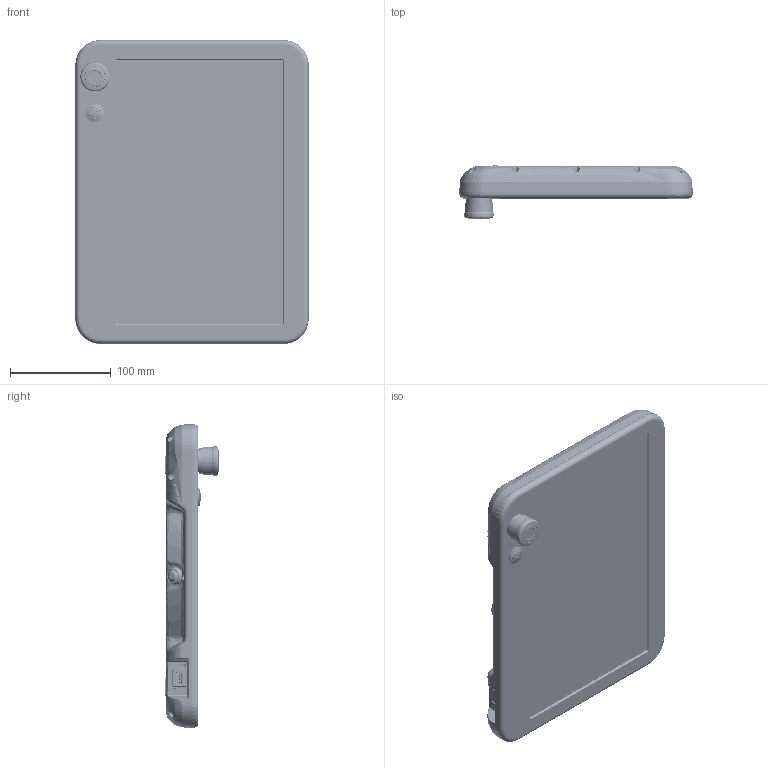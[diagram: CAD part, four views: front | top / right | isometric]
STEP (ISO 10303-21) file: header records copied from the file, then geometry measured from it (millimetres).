
FILE_DESCRIPTION (( 'STEP AP203' ), '1' );
FILE_NAME ('SJQ-C-勤俋.STEP', '2022-08-02T07:43:41', ( '' ), ( '' ), 'SwSTEP 2.0', 'SolidWorks 2017', '' );
FILE_SCHEMA (( 'CONFIG_CONTROL_DESIGN' ));
Length unit declared in the file: millimetre
Products named in the file (14): 尨諒ん綴褲-C_1; eTP_USB_V1.021_1; cross recessed ctsk head tapping screws gb_GB_CROSS_SCREWS_TYPE129 ST2.9X9.5 H C-N; cross recessed pan head tapping screws gb_GB_CROSS_SCREWS_TYPE128 ST2.9X6.5 H F-S; SJQ-C-勤俋; 羲壽MPB16L-CXRP-00-JR_1; 尨諒ん忒勂湍鍼踢-C_1; XA1E-BV3U02K; SJQ褲极_1; 尨諒ん境像鍼踢-C_1; cross recessed countersunk head screws gb1_GB_CROSS_SCREWS_TYPE4 M2.5X8-6.5  H type-N; ZB12106 2A-GDA-A1  揖類そ帊欴抎-XXE_1; 尨諒んヶ裔-C_1; 偌聽ISR3SAD200_1
Assembly tree (56 placements, depth 3):
  SJQ-C-勤俋
    SJQ褲极_1
      尨諒ん綴褲-C_1
      尨諒んヶ裔-C_1
    尨諒ん忒勂湍鍼踢-C_1  x2
    尨諒ん境像鍼踢-C_1
    ZB12106 2A-GDA-A1  揖類そ帊欴抎-XXE_1
    XA1E-BV3U02K
    羲壽MPB16L-CXRP-00-JR_1
    偌聽ISR3SAD200_1
    eTP_USB_V1.021_1
    cross recessed pan head tapping screws gb_GB_CROSS_SCREWS_TYPE128 ST2.9X6.5 H F-S  x35
    cross recessed countersunk head screws gb1_GB_CROSS_SCREWS_TYPE4 M2.5X8-6.5  H type-N  x2
    cross recessed ctsk head tapping screws gb_GB_CROSS_SCREWS_TYPE129 ST2.9X9.5 H C-N  x8
Bounding box: 232 x 53.6 x 302 mm (x, y, z)
Volume: 538761.4 mm3; surface area: 392660.6 mm2
Topology: 71 solids, 71 shells, 8327 faces, 21338 edges, 13267 vertices
Faces by surface type: plane 2494, cylinder 2099, cone 2097, bspline 1612, sphere 13, torus 12
Entity records: 266099 total; most frequent: CARTESIAN_POINT 145160, ORIENTED_EDGE 26944, DIRECTION 21711, EDGE_CURVE 13472, VERTEX_POINT 8396, AXIS2_PLACEMENT_3D 7677, LINE 6357, VECTOR 6357
